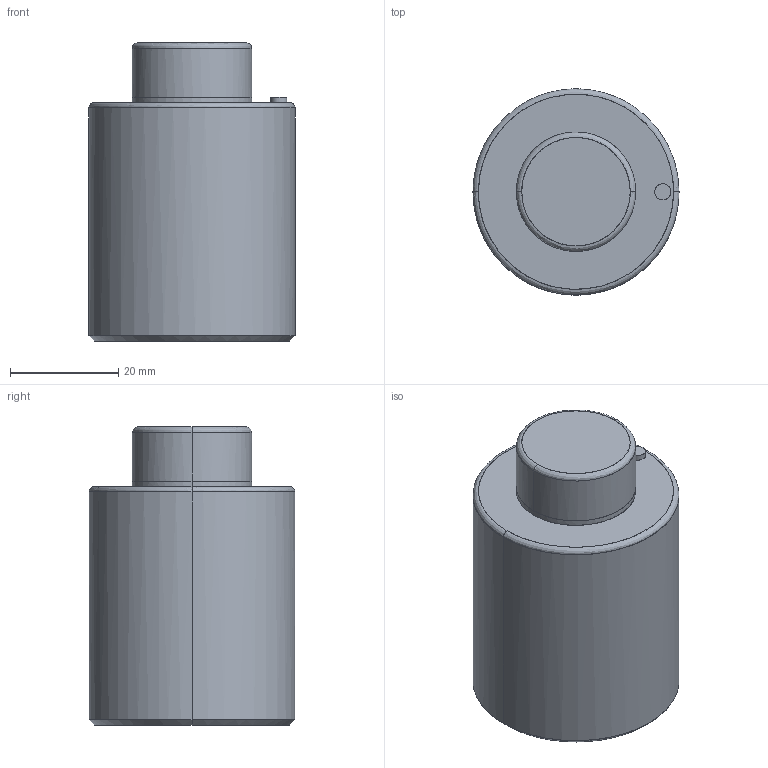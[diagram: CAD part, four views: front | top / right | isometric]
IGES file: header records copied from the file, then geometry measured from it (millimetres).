
Global section: file name: E:\UnigraphicsGraphicData\MISUMI_PRESS-PARTS\IGES\3d_gsc38-10_03842_r00.igs; native system: NX V5.0; preprocessor: UGS NX IGES V5.0; author: MISUMI; date: 20110105.160746; units: millimetre
Bounding box: 38 x 37.98 x 55 mm (x, y, z)
Surface area: 8530.4 mm2 (no closed solid volume)
Topology: 0 solids, 0 shells, 25 faces, 168 edges, 166 vertices
Faces by surface type: bspline 25
